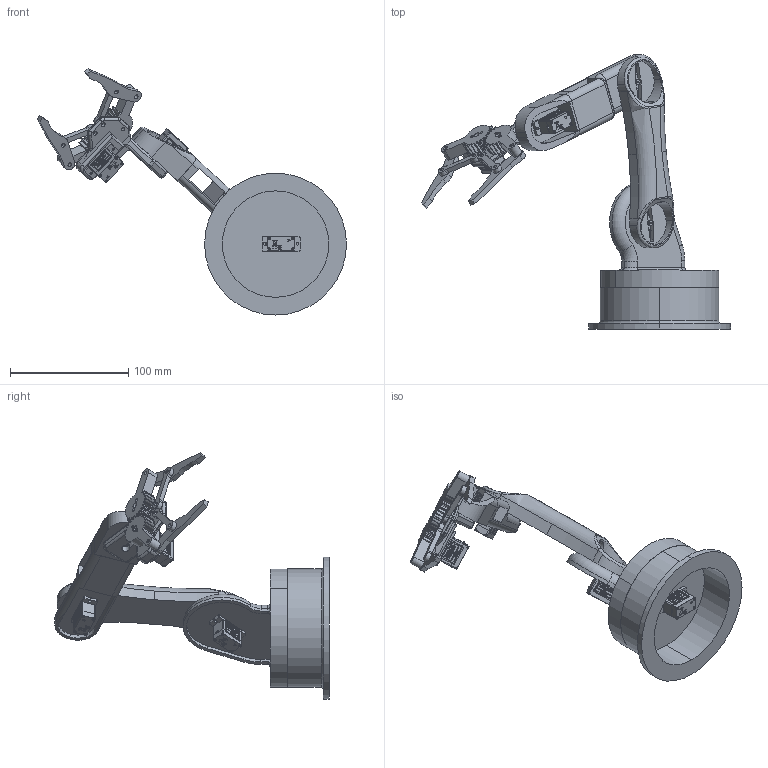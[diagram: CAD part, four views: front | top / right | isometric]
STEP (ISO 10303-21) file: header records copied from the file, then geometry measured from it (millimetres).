
FILE_DESCRIPTION (( 'STEP AP214' ), '1' );
FILE_NAME ('robotarmassemstep.STEP', '2026-10-10T07:15:55', ( '' ), ( '' ), 'SwSTEP 2.0', 'SolidWorks 2026', '' );
FILE_SCHEMA (( 'AUTOMOTIVE_DESIGN' ));
Length unit declared in the file: millimetre
Products named in the file (12): SG90 - Micro Servo 9g - Tower Pro.1_Peça; gearlink3; link2; gearlink2; link1; basecap; gripbase; link3; robotarmbase; Robotic Gripper Assem; gear link; robotarmassemstep
Assembly tree (18 placements, depth 3):
  robotarmassemstep
    robotarmbase
    SG90 - Micro Servo 9g - Tower Pro.1_Peça  x4
    basecap
    link1
    link2
    link3
    Robotic Gripper Assem
      gripbase
      gear link  x2
      gearlink3  x2
      gearlink2  x2
      SG90 - Micro Servo 9g - Tower Pro.1_Peça
Bounding box: 261.23 x 232.12 x 208.09 mm (x, y, z)
Volume: 398048.2 mm3; surface area: 166051.2 mm2
Topology: 77 solids, 77 shells, 3733 faces, 12575 edges, 9553 vertices
Faces by surface type: plane 2325, cylinder 1052, torus 208, bspline 128, sphere 10, cone 10
Entity records: 46794 total; most frequent: CARTESIAN_POINT 16631, ORIENTED_EDGE 6662, DIRECTION 5585, EDGE_CURVE 3331, VERTEX_POINT 2429, AXIS2_PLACEMENT_3D 1891, VECTOR 1803, LINE 1803
